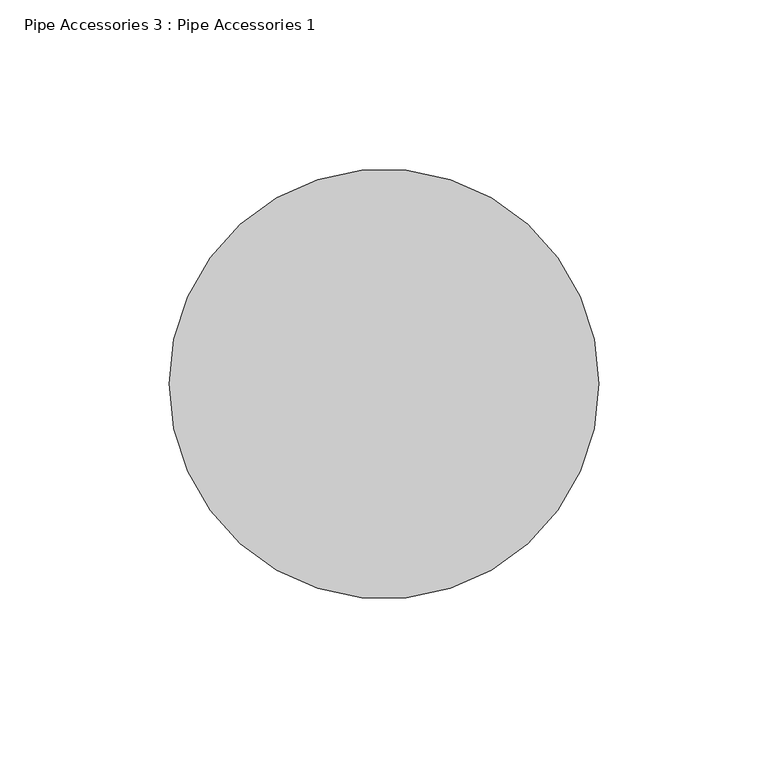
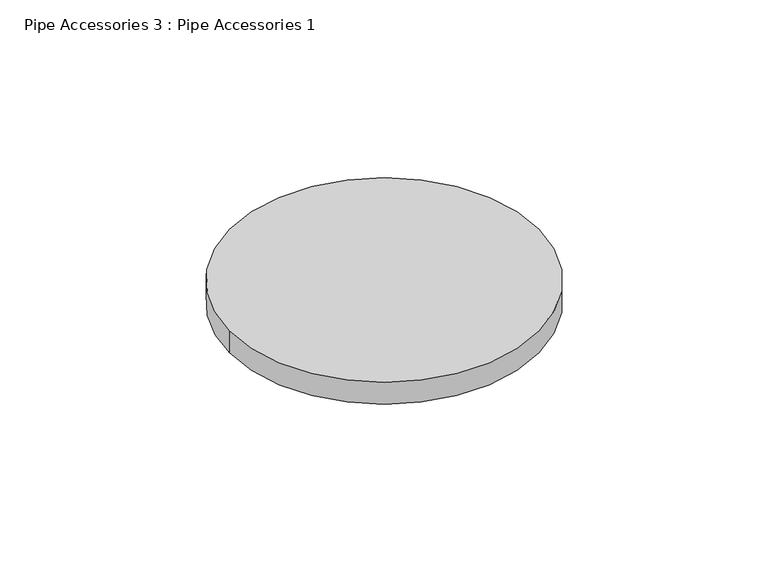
"""IFC4 building model written with IfcOpenShell, lengths in millimetres: valve geometry, Pipe Accessories 3 : Pipe Accessories 1."""

import ifcopenshell
import ifcopenshell.guid

model = None  # the IFC model being written
_history = None  # IfcOwnerHistory: only IFC2X3 demands one
_inside = {}  # id of a spatial element -> (the spatial element, [elements in it])
_under = {}  # id of a project, library or spatial element -> (it, [spatial elements below it])
_declared = {}  # id of a project -> (the project, [libraries it declares])
_typed = {}  # id of a type object -> (the type object, [elements of that type])
_made_of = {}  # id of a material, layer set ... -> (it, [elements and type objects made of it])


def new_model(schema):
    """Start an empty IFC model of exactly this schema.

    Asked for "IFC4X3", IfcOpenShell would pick the latest addendum, in which some entities
    have other attributes; the version numbers below select the first issue.
    IFC2X3 requires an IfcOwnerHistory on every rooted entity: one is made here for all.
    """
    global model, _history
    if schema == "IFC4X3":
        model = ifcopenshell.file(schema_version=(4, 3, 0, 0))
    else:
        model = ifcopenshell.file(schema=schema)
    _inside.clear()
    _under.clear()
    _declared.clear()
    _typed.clear()
    _made_of.clear()
    _history = None
    if model.schema == "IFC2X3":
        org = make("IfcOrganization", Name="unknown")
        user = make(
            "IfcPersonAndOrganization",
            ThePerson=make("IfcPerson", FamilyName="unknown"),
            TheOrganization=org,
        )
        app = make(
            "IfcApplication",
            ApplicationDeveloper=org,
            Version="unknown",
            ApplicationFullName="unknown",
            ApplicationIdentifier="unknown",
        )
        _history = make(
            "IfcOwnerHistory",
            OwningUser=user,
            OwningApplication=app,
            ChangeAction="ADDED",
            CreationDate=0,
        )
    return model


def make(cls, **values):
    """One entity of the class cls with the attributes given. An attribute that is None is left unset."""
    return model.create_entity(
        cls, **{name: value for name, value in values.items() if value is not None}
    )


def rooted(cls, **values):
    """An entity with a GlobalId (a new one), such as an element, a storey or a relation."""
    return make(cls, GlobalId=ifcopenshell.guid.new(), OwnerHistory=_history, **values)


def si_unit(unit_type, name, prefix=None):
    """IfcSIUnit, for example si_unit("LENGTHUNIT", "METRE", prefix="MILLI")."""
    return make("IfcSIUnit", UnitType=unit_type, Prefix=prefix, Name=name)


def assignment(units):
    """IfcUnitAssignment: the units of a project."""
    return None if units is None else make("IfcUnitAssignment", Units=units)


def point(xyz):
    """IfcCartesianPoint."""
    return None if xyz is None else make("IfcCartesianPoint", Coordinates=xyz)


def direction(xyz):
    """IfcDirection."""
    return None if xyz is None else make("IfcDirection", DirectionRatios=xyz)


def frame(location, z_axis=None, x_axis=None):
    """IfcAxis2Placement3D, a coordinate frame: its origin and axes. An axis left out is left unset."""
    return make(
        "IfcAxis2Placement3D",
        Location=point(location),
        Axis=direction(z_axis),
        RefDirection=direction(x_axis),
    )


def frame_2d(location, x_axis=None):
    """IfcAxis2Placement2D, a coordinate frame in the plane: its origin and x axis."""
    return make(
        "IfcAxis2Placement2D", Location=point(location), RefDirection=direction(x_axis)
    )


def origin():
    """The frame at (0, 0, 0) with its axes left unset."""
    return frame((0.0, 0.0, 0.0))


def place(relative_to, where):
    """IfcLocalPlacement: puts the frame where relative to a parent placement (None: the world)."""
    return make(
        "IfcLocalPlacement", PlacementRelTo=relative_to, RelativePlacement=where
    )


def context(
    kind, dimensions, precision=None, world=None, true_north=None, identifier=None
):
    """IfcGeometricRepresentationContext, for example the 3D "Model" context."""
    return make(
        "IfcGeometricRepresentationContext",
        ContextIdentifier=identifier,
        ContextType=kind,
        CoordinateSpaceDimension=dimensions,
        Precision=precision,
        WorldCoordinateSystem=world,
        TrueNorth=true_north,
    )


def project(units=None, contexts=None):
    """IfcProject with its units and contexts."""
    return rooted(
        "IfcProject",
        Name="project",
        RepresentationContexts=contexts,
        UnitsInContext=assignment(units),
    )


def spatial(cls, under=None, at=None, **own):
    """A site, building, storey or space (cls), placed at a placement, below another one or the project."""
    s = rooted(cls, ObjectPlacement=at, **own)
    if under is not None:
        _under.setdefault(under.id(), (under, []))[1].append(s)
    return s


def circle_curve(where, radius):
    """IfcCircle in the frame where."""
    return make("IfcCircle", Position=where, Radius=radius)


def trimmed(basis, trim1, trim2, sense, master):
    """IfcTrimmedCurve: the piece of a basis curve between two trims."""
    return make(
        "IfcTrimmedCurve",
        BasisCurve=basis,
        Trim1=trim1,
        Trim2=trim2,
        SenseAgreement=sense,
        MasterRepresentation=master,
    )


def segment(curve, same_sense, transition):
    """IfcCompositeCurveSegment."""
    return make(
        "IfcCompositeCurveSegment",
        Transition=transition,
        SameSense=same_sense,
        ParentCurve=curve,
    )


def composite_curve(segments, self_intersect=None):
    """IfcCompositeCurve: segments joined end to end."""
    return make("IfcCompositeCurve", Segments=segments, SelfIntersect=self_intersect)


def outline(outer, holes=None, kind="AREA"):
    """IfcArbitraryClosedProfileDef: a profile drawn as a closed curve; with holes, ...WithVoids."""
    if holes is None:
        return make("IfcArbitraryClosedProfileDef", ProfileType=kind, OuterCurve=outer)
    return make(
        "IfcArbitraryProfileDefWithVoids",
        ProfileType=kind,
        OuterCurve=outer,
        InnerCurves=holes,
    )


def extrude(swept, where, along, depth):
    """IfcExtrudedAreaSolid: the profile swept, set in the frame where, extruded along a direction by depth."""
    return make(
        "IfcExtrudedAreaSolid",
        SweptArea=swept,
        Position=where,
        ExtrudedDirection=direction(along),
        Depth=depth,
    )


def shape(context_of_items, identifier, shape_type, items):
    """IfcShapeRepresentation: the items that make up one representation, for example the "Body"."""
    return make(
        "IfcShapeRepresentation",
        ContextOfItems=context_of_items,
        RepresentationIdentifier=identifier,
        RepresentationType=shape_type,
        Items=items,
    )


def source(mapping_origin, context_of_items, identifier, shape_type, items):
    """IfcRepresentationMap: a shape defined once, which mapped items show again and again."""
    return make(
        "IfcRepresentationMap",
        MappingOrigin=mapping_origin,
        MappedRepresentation=shape(context_of_items, identifier, shape_type, items),
    )


def transform(
    local_origin,
    x_axis=None,
    y_axis=None,
    z_axis=None,
    scale=None,
    scale2=None,
    scale3=None,
    uniform=True,
):
    """IfcCartesianTransformationOperator3D, or its non-uniform kind. x_axis, y_axis, z_axis: its Axis1, 2, 3."""
    if uniform:
        return make(
            "IfcCartesianTransformationOperator3D",
            Axis1=direction(x_axis),
            Axis2=direction(y_axis),
            LocalOrigin=point(local_origin),
            Scale=scale,
            Axis3=direction(z_axis),
        )
    return make(
        "IfcCartesianTransformationOperator3DnonUniform",
        Axis1=direction(x_axis),
        Axis2=direction(y_axis),
        LocalOrigin=point(local_origin),
        Scale=scale,
        Axis3=direction(z_axis),
        Scale2=scale2,
        Scale3=scale3,
    )


def mapped(mapping_source, mapping_target):
    """IfcMappedItem: shows the shape of a source again, moved by a transform."""
    return make(
        "IfcMappedItem", MappingSource=mapping_source, MappingTarget=mapping_target
    )


def made_of(thing, what):
    """Note that an element or type object is made of a material, layer set ...; save() writes the relation."""
    if what is not None:
        _made_of.setdefault(what.id(), (what, []))[1].append(thing)
    return thing


def element(
    cls,
    number,
    at=None,
    inside=None,
    cuts=None,
    type_object=None,
    material=None,
    context=None,
    identifier="Body",
    shape_type=None,
    held_by="IfcProductDefinitionShape",
    body=None,
    shapes=None,
    **own,
):
    """One element of the class cls, such as IfcWall. Its Tag is "e" and its number.

    at: its placement. inside: the storey or other place that contains it. cuts: it is an
    opening in that element (IfcRelVoidsElement). A single representation is given by context,
    identifier, shape_type and body (its items); several are given by shapes. held_by: the class
    of the entity that holds the representations. save() writes the other relations.
    """
    e = rooted(cls, Tag="e%d" % number, ObjectPlacement=at, **own)
    if body is not None:
        shapes = [shape(context, identifier, shape_type, body)]
    if shapes is not None:
        e.Representation = make(held_by, Representations=shapes)
    if inside is not None:
        _inside.setdefault(inside.id(), (inside, []))[1].append(e)
    if cuts is not None:
        rooted(
            "IfcRelVoidsElement", RelatingBuildingElement=cuts, RelatedOpeningElement=e
        )
    if type_object is not None:
        _typed.setdefault(type_object.id(), (type_object, []))[1].append(e)
    return made_of(e, material)


def aggregate(whole, parts):
    """IfcRelAggregates: a whole, such as a stair, and the parts it consists of."""
    return rooted("IfcRelAggregates", RelatingObject=whole, RelatedObjects=parts)


def save(model, path):
    """Write the relations noted so far, then the file.

    IfcRelAggregates (storeys below a building ...), IfcRelContainedInSpatialStructure (elements
    in a storey), IfcRelDefinesByType, IfcRelAssociatesMaterial and IfcRelDeclares: one each for
    every whole, place, type object, material and project.
    """
    for whole, parts in _under.values():
        aggregate(whole, parts)
    for where, things in _inside.values():
        rooted(
            "IfcRelContainedInSpatialStructure",
            RelatedElements=things,
            RelatingStructure=where,
        )
    for kind, things in _typed.values():
        rooted("IfcRelDefinesByType", RelatedObjects=things, RelatingType=kind)
    for what, things in _made_of.values():
        rooted("IfcRelAssociatesMaterial", RelatedObjects=things, RelatingMaterial=what)
    for by, libraries in _declared.values():
        rooted("IfcRelDeclares", RelatingContext=by, RelatedDefinitions=libraries)
    model.write(path)


def pipe_accessories_3_pipe_accessories_1_588a886f(model_context):
    return source(origin(), model_context, "Body", "SweptSolid", [
        extrude(outline(composite_curve([segment(trimmed(circle_curve(frame_2d((11487.5680289, 2040.2688308)), 63.5), [point((11424.0680289, 2040.2688308))], [point((11551.0680289, 2040.2688308))], False, "CARTESIAN"), True, "CONTINUOUS"), segment(trimmed(circle_curve(frame_2d((11487.5680289, 2040.2688308)), 63.5), [point((11551.0680289, 2040.2688308))], [point((11424.0680289, 2040.2688308))], False, "CARTESIAN"), True, "CONTINUOUS")], self_intersect=False)), frame((0.0, 0.0, 322.0891676), z_axis=(0.0, 0.0, 1.0), x_axis=(1.0, 0.0, 0.0)), (0.0, 0.0, 1.0), 9.525),
    ])


if __name__ == "__main__":
    model = new_model("IFC4")
    model_context = context("Model", 3, world=origin())
    ifc_project = project(units=[si_unit("LENGTHUNIT", "METRE", prefix="MILLI")], contexts=[model_context])
    site = spatial("IfcSite", under=ifc_project)
    building = spatial("IfcBuilding", under=site)
    placement = place(None, origin())
    pipe_accessories_3_pipe_accessories_1_shape = pipe_accessories_3_pipe_accessories_1_588a886f(model_context)
    element("IfcValve", 1, ObjectType="Pipe Accessories 3 : Pipe Accessories 1", at=placement, inside=building, context=model_context, shape_type="MappedRepresentation", body=[
        mapped(pipe_accessories_3_pipe_accessories_1_shape, transform((0.0, 0.0, 0.0), x_axis=(1.0, 0.0, 0.0), y_axis=(0.0, 1.0, 0.0), z_axis=(0.0, 0.0, 1.0))),
    ])
    save(model, "model.ifc")
